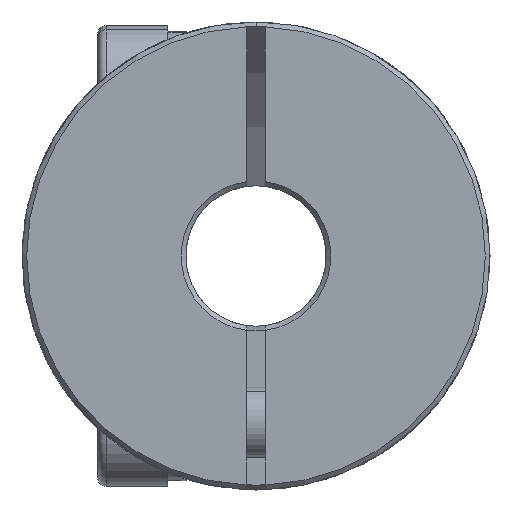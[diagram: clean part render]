
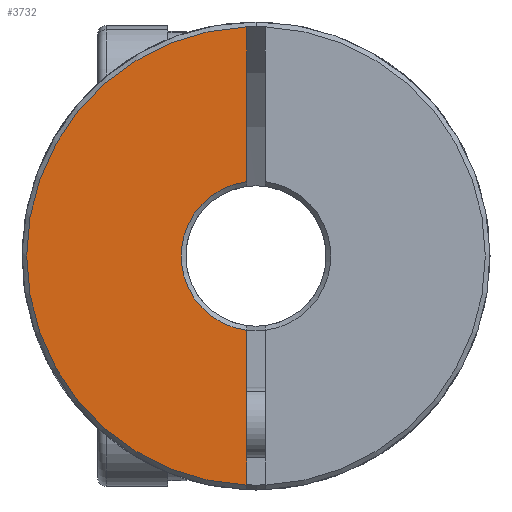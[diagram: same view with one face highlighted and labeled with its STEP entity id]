
A CAD part, front view. The second image highlights one B-rep face of the part: STEP entity #3732.
In plain terms, the highlighted planar face has unit normal (0, -1, 0).
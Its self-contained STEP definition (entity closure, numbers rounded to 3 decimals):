
#65 = ORIENTED_EDGE ( 'NONE', *, *, #1755, .T. ) ;
#121 = LINE ( 'NONE', #7483, #6335 ) ;
#252 = CARTESIAN_POINT ( 'NONE',  ( 0., -17.5, 0. ) ) ;
#671 = CARTESIAN_POINT ( 'NONE',  ( -0.4, -17.5, 0. ) ) ;
#1377 = ORIENTED_EDGE ( 'NONE', *, *, #7253, .F. ) ;
#1617 = CARTESIAN_POINT ( 'NONE',  ( -0.4, -17.5, 9.792 ) ) ;
#1755 = EDGE_CURVE ( 'NONE', #4933, #3137, #2796, .T. ) ;
#1830 = DIRECTION ( 'NONE',  ( 0., -1., 0. ) ) ;
#2116 = AXIS2_PLACEMENT_3D ( 'NONE', #7202, #4999, #3277 ) ;
#2195 = EDGE_CURVE ( 'NONE', #3238, #3137, #3100, .T. ) ;
#2257 = CIRCLE ( 'NONE', #2116, 3.2 ) ;
#2421 = CARTESIAN_POINT ( 'NONE',  ( 0., -17.5, 0. ) ) ;
#2551 = AXIS2_PLACEMENT_3D ( 'NONE', #252, #5605, #3880 ) ;
#2796 = CIRCLE ( 'NONE', #5790, 9.8 ) ;
#2884 = DIRECTION ( 'NONE',  ( 0., 0., -1. ) ) ;
#3072 = EDGE_CURVE ( 'NONE', #3238, #5326, #2257, .T. ) ;
#3100 = LINE ( 'NONE', #671, #6796 ) ;
#3119 = PLANE ( 'NONE',  #2551 ) ;
#3137 = VERTEX_POINT ( 'NONE', #6779 ) ;
#3238 = VERTEX_POINT ( 'NONE', #4635 ) ;
#3277 = DIRECTION ( 'NONE',  ( 0., 0., 1. ) ) ;
#3571 = DIRECTION ( 'NONE',  ( 0., 0., -1. ) ) ;
#3628 = CARTESIAN_POINT ( 'NONE',  ( -0.4, -17.5, 3.175 ) ) ;
#3732 = ADVANCED_FACE ( 'NONE', ( #4763 ), #3119, .F. ) ;
#3880 = DIRECTION ( 'NONE',  ( 0., 0., 1. ) ) ;
#4635 = CARTESIAN_POINT ( 'NONE',  ( -0.4, -17.5, -3.175 ) ) ;
#4763 = FACE_OUTER_BOUND ( 'NONE', #4874, .T. ) ;
#4874 = EDGE_LOOP ( 'NONE', ( #1377, #65, #6766, #7019 ) ) ;
#4933 = VERTEX_POINT ( 'NONE', #1617 ) ;
#4999 = DIRECTION ( 'NONE',  ( 0., 1., 0. ) ) ;
#5326 = VERTEX_POINT ( 'NONE', #3628 ) ;
#5605 = DIRECTION ( 'NONE',  ( 0., 1., 0. ) ) ;
#5790 = AXIS2_PLACEMENT_3D ( 'NONE', #2421, #1830, #5801 ) ;
#5801 = DIRECTION ( 'NONE',  ( 0., 0., 1. ) ) ;
#6335 = VECTOR ( 'NONE', #2884, 1000. ) ;
#6766 = ORIENTED_EDGE ( 'NONE', *, *, #2195, .F. ) ;
#6779 = CARTESIAN_POINT ( 'NONE',  ( -0.4, -17.5, -9.792 ) ) ;
#6796 = VECTOR ( 'NONE', #3571, 1000. ) ;
#7019 = ORIENTED_EDGE ( 'NONE', *, *, #3072, .T. ) ;
#7202 = CARTESIAN_POINT ( 'NONE',  ( 0., -17.5, 0. ) ) ;
#7253 = EDGE_CURVE ( 'NONE', #4933, #5326, #121, .T. ) ;
#7483 = CARTESIAN_POINT ( 'NONE',  ( -0.4, -17.5, 0. ) ) ;
